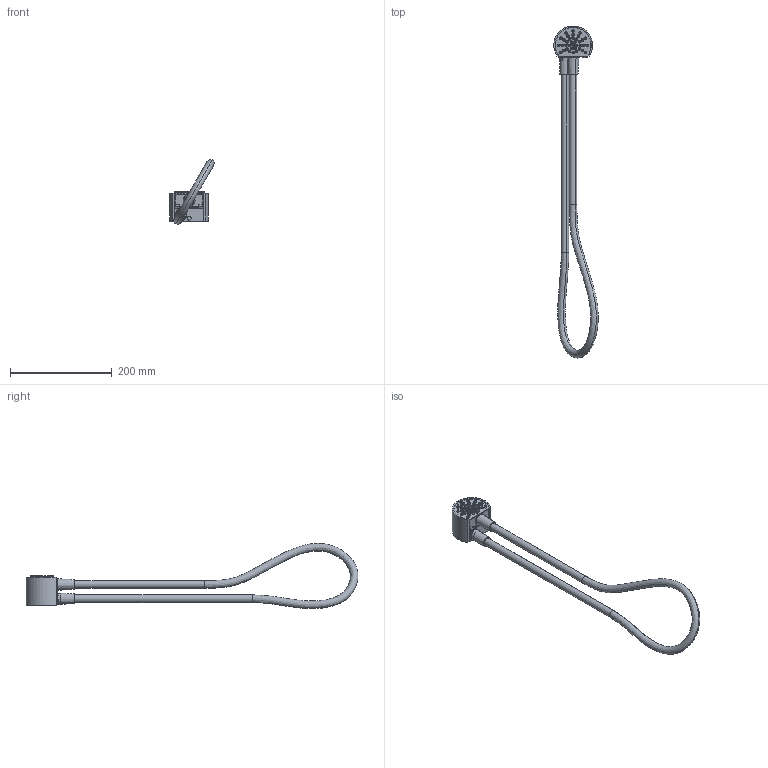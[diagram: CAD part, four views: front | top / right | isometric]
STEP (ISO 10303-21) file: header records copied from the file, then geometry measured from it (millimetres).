
FILE_DESCRIPTION((''),'2;1');
FILE_NAME('89400W21_SW0001','2020-06-19T10:35:01',('carloff'),(''),'CREO PARAMETRIC BY PTC INC, 2018100','CREO PARAMETRIC BY PTC INC, 2018100','');
FILE_SCHEMA(('CONFIG_CONTROL_DESIGN'));
Length unit declared in the file: millimetre
Products named in the file (1): 89400W21_SW0001
Bounding box: 87.19 x 651.78 x 127.75 mm (x, y, z)
Surface area: 96595.7 mm2 (no closed solid volume)
Topology: 0 solids, 54 shells, 238 faces, 540 edges, 355 vertices
Faces by surface type: torus 148, plane 65, cylinder 19, cone 4, bspline 2
Entity records: 7382 total; most frequent: CARTESIAN_POINT 1770, DIRECTION 1446, ORIENTED_EDGE 911, AXIS2_PLACEMENT_3D 672, EDGE_CURVE 540, CIRCLE 436, VERTEX_POINT 355, EDGE_LOOP 238
